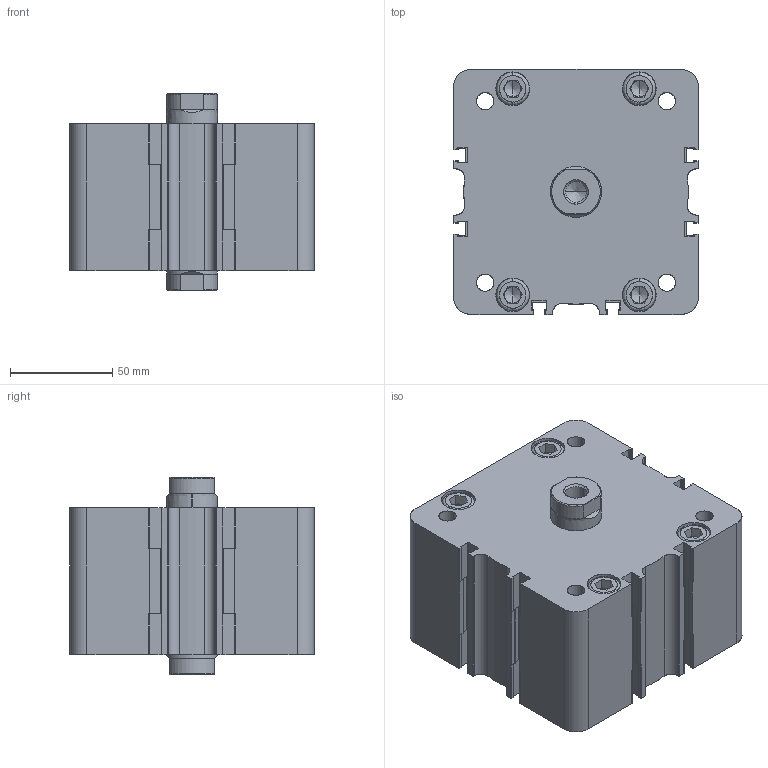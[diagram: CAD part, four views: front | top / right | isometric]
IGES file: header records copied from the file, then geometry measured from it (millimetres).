
Start section: SolidWorks IGES file using analytic representation for surfaces
Global section: file name: K:\Disegni Esecutivi\Cilindri\2_DISEGNI_cilindri_in_produzione\CILINDRO_ISO_21287\seconda versione cilindro 21287\2_CIL100\complessivi W100\W100_PIENI\WJ100\WJ1000005A.igs; native system: SolidWorks 2011; preprocessor: SolidWorks 2011; author: Cad01; date: 120803.172932; units: millimetre
Bounding box: 120 x 120 x 97 mm (x, y, z)
Surface area: 89737 mm2 (no closed solid volume)
Topology: 0 solids, 0 shells, 573 faces, 5845 edges, 5827 vertices
Faces by surface type: bspline 302, revolution 271
